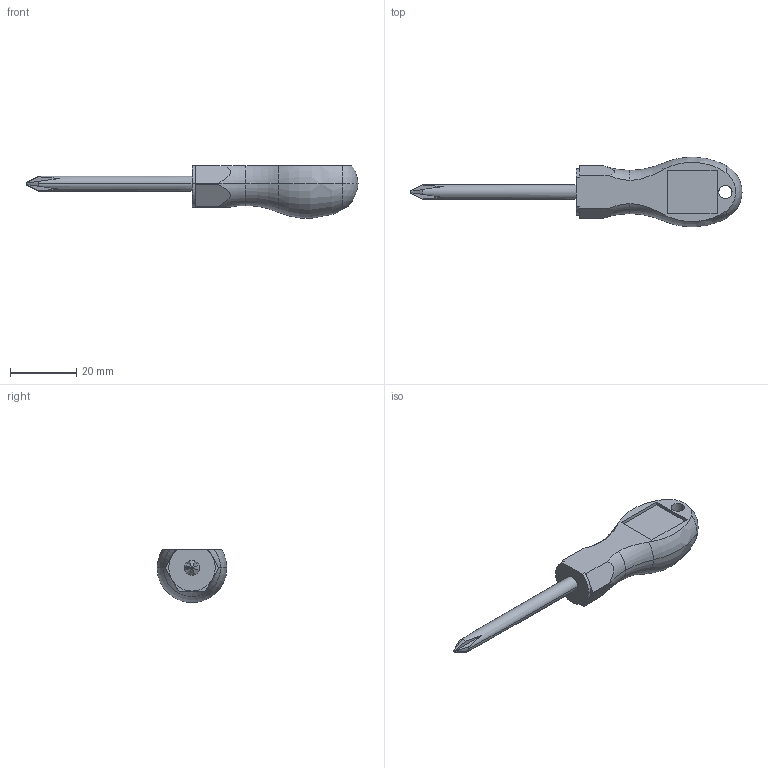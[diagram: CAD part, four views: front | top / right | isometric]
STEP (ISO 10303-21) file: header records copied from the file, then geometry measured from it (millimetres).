
FILE_DESCRIPTION (( 'STEP AP214' ), '1' );
FILE_NAME ('Îòâåðòêà êðåñòîâàÿ_áåç ëîãîòèïà.STEP', '2025-02-13T21:22:41', ( '' ), ( '' ), 'SwSTEP 2.0', 'SolidWorks 2022', '' );
FILE_SCHEMA (( 'AUTOMOTIVE_DESIGN' ));
Length unit declared in the file: millimetre
Products named in the file (1): Отвертка крестовая_без логотипа
Bounding box: 100 x 20.98 x 15.93 mm (x, y, z)
Volume: 9628.6 mm3; surface area: 3625.9 mm2
Topology: 1 solids, 1 shells, 55 faces, 144 edges, 92 vertices
Faces by surface type: plane 27, cylinder 12, torus 9, cone 5, sphere 2
Entity records: 2021 total; most frequent: CARTESIAN_POINT 647, ORIENTED_EDGE 288, DIRECTION 281, EDGE_CURVE 144, AXIS2_PLACEMENT_3D 112, VERTEX_POINT 92, EDGE_LOOP 58, VECTOR 57
